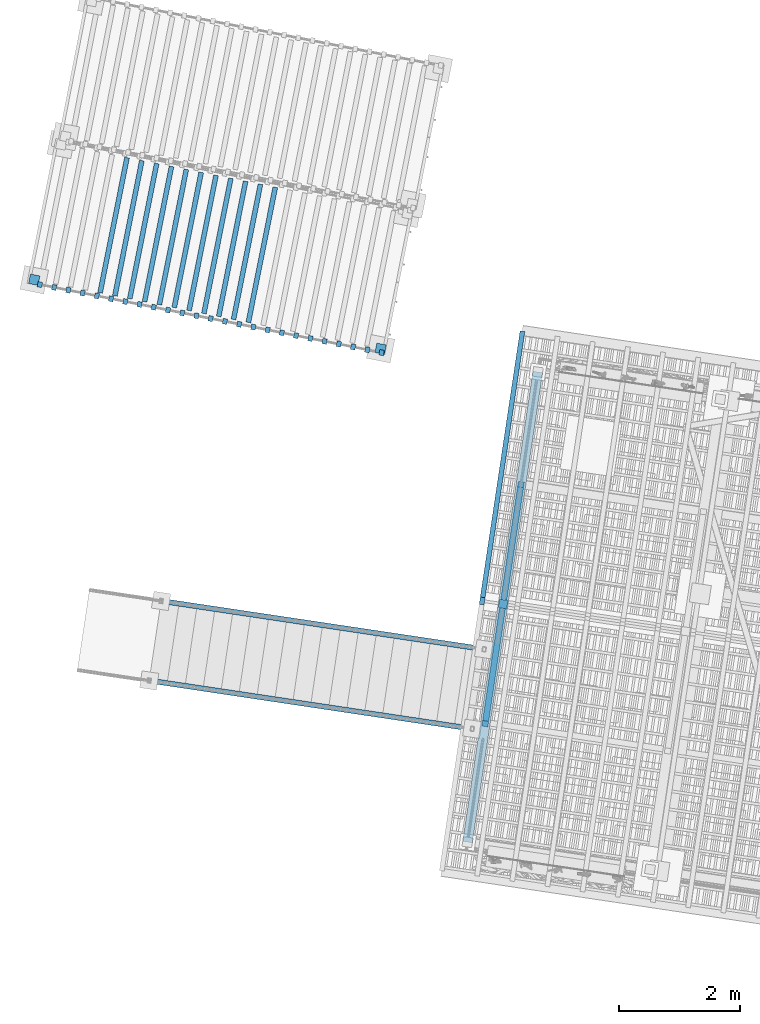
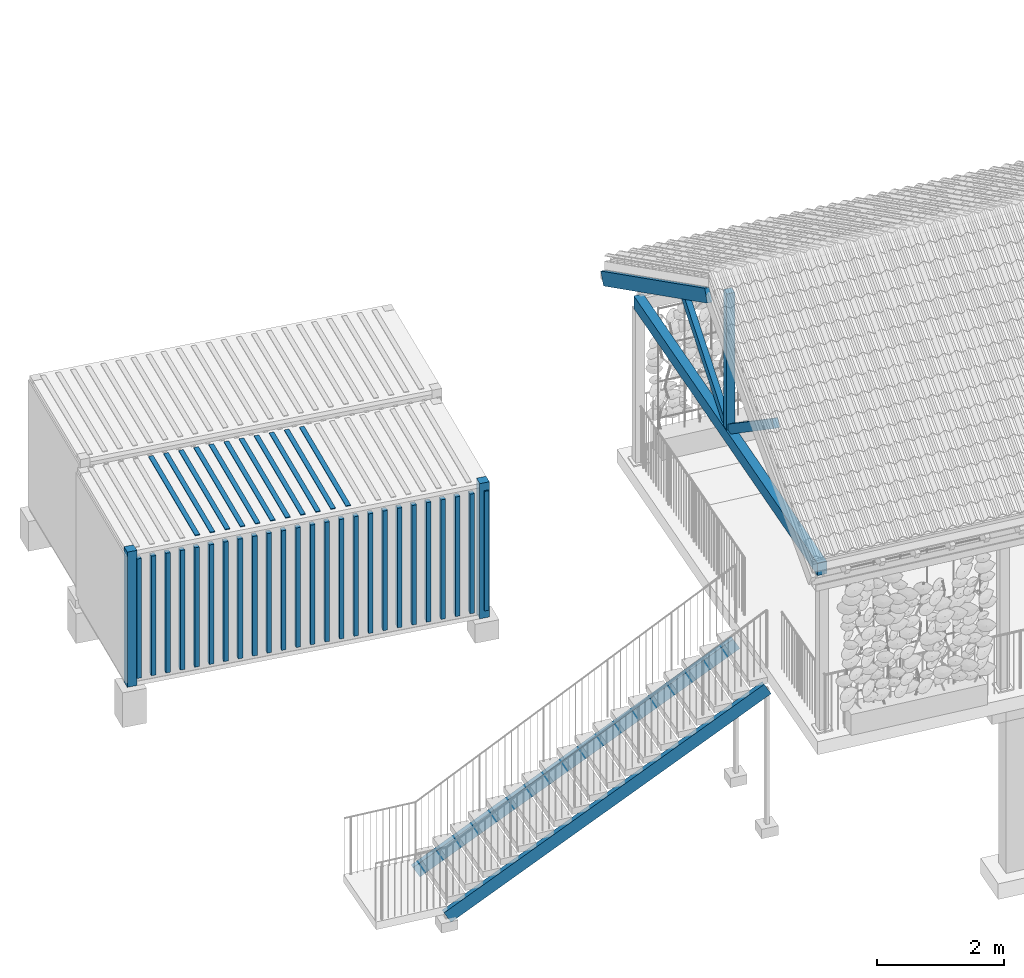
# One storey, part 23 of 131: 44 members, 1 beam, 3 elements without a shape of their own.
"""IFC4 building model written with IfcOpenShell, lengths in metres."""

from ifc_helpers import new_model, si_unit, direction, frame, origin_with_axes, place, context, subcontext, project, spatial, polyline, rectangle, outline, extrude, material, material_profile, profile_set, profile_usage, type_object, element, aggregate, save


model = new_model("IFC4")

# Units and contexts
model_context = context("Model", 3, precision=1e-05, world=origin_with_axes(), true_north=direction((0.0, 1.0)))
body_context = subcontext(model_context, "Body", "Model", "MODEL_VIEW")
ifc_project = project(units=[si_unit("VOLUMEUNIT", "CUBIC_METRE"), si_unit("LENGTHUNIT", "METRE"), si_unit("AREAUNIT", "SQUARE_METRE")], contexts=[model_context])

# Site, building, storey
site_placement = place(None, origin_with_axes())
site = spatial("IfcSite", under=ifc_project, at=site_placement, Name="Lares · Rua das Mercês · artigo 4771")
building_placement = place(site_placement, frame((15.0, 9.7, 15.8), z_axis=(0.0, 0.0, 1.0), x_axis=(0.989015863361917, -0.147809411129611, 0.0)))
building = spatial("IfcBuilding", under=site, at=building_placement, Name="Casa Sobreposta")
storey_placement = place(building_placement, origin_with_axes())
storey = spatial("IfcBuildingStorey", under=building, at=storey_placement, Name="00 · Habitação e estacionamento", Elevation=15.8)

# Roof, beam, members
ifc_material_1 = material(Name="Madeira / Bauholz", Category="wood")
roof_placement = place(storey_placement, origin_with_axes())
roof = element("IfcRoof", 1, at=roof_placement, inside=storey, material=ifc_material_1, Name="Cobertura de telha · duas águas 30 graus", PredefinedType="GABLE_ROOF")
ifc_material_profile_1 = material_profile(ifc_material_1, rectangle(XDim=0.16, YDim=0.24))
ifc_profile_set_1 = profile_set([ifc_material_profile_1], Name="TIMBER0.160x0.240")
ifc_profile_usage_1 = profile_usage(ifc_profile_set_1)
beam_type = type_object("IfcBeamType", Name="TIMBER0.160x0.240 / timber", PredefinedType="NOTDEFINED", material=ifc_profile_set_1)
beam_placement = place(roof_placement, frame((-6.05, -1.43, 3.02), z_axis=(0.0, 1.0, 0.0), x_axis=(1.0, 0.0, 0.0)))
beam = element("IfcBeam", 2, at=beam_placement, type_object=beam_type, material=ifc_profile_usage_1, Name="Tesoura · tirante inferior", context=body_context, shape_type="SweptSolid", body=[
    extrude(rectangle(XDim=0.16, YDim=0.24), origin_with_axes(), (0.0, 0.0, 1.0), 7.86),
])
ifc_material_profile_2 = material_profile(ifc_material_1, rectangle(XDim=0.14, YDim=0.14))
ifc_profile_set_2 = profile_set([ifc_material_profile_2], Name="TIMBER0.140x0.140")
ifc_profile_usage_2 = profile_usage(ifc_profile_set_2)
member_type_1 = type_object("IfcMemberType", Name="TIMBER0.140x0.140 / timber", PredefinedType="NOTDEFINED", material=ifc_profile_set_2)
member_1_placement = place(roof_placement, frame((-6.05, 2.55, 3.02), z_axis=(0.0, 0.0, 1.0), x_axis=(1.0, 0.0, 0.0)))
member_1 = element("IfcMember", 3, at=member_1_placement, type_object=member_type_1, material=ifc_profile_usage_2, Name="Tesoura · pendural", context=body_context, shape_type="SweptSolid", body=[
    extrude(rectangle(XDim=0.14, YDim=0.14), origin_with_axes(), (0.0, 0.0, 1.0), 2.72420869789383),
])
ifc_material_profile_3 = material_profile(ifc_material_1, rectangle(XDim=0.1, YDim=0.16))
ifc_profile_set_3 = profile_set([ifc_material_profile_3], Name="TIMBER0.100x0.160")
ifc_profile_usage_3 = profile_usage(ifc_profile_set_3)
member_type_2 = type_object("IfcMemberType", Name="TIMBER0.100x0.160 / timber", PredefinedType="NOTDEFINED", material=ifc_profile_set_3)
member_2_placement = place(roof_placement, frame((-6.05, 2.55, 3.1), z_axis=(0.0, -0.816439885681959, 0.577430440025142), x_axis=(-1.0, 0.0, 0.0)))
member_2 = element("IfcMember", 4, at=member_2_placement, type_object=member_type_2, material=ifc_profile_usage_3, Name="Tesoura · escora", context=body_context, shape_type="SweptSolid", body=[
    extrude(rectangle(XDim=0.1, YDim=0.16), origin_with_axes(), (0.0, 0.0, 1.0), 2.44965984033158),
])
ifc_profile_usage_4 = profile_usage(ifc_profile_set_3)
member_3_placement = place(roof_placement, frame((-6.05, 2.55, 3.1), z_axis=(0.0, 0.816439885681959, 0.577430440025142), x_axis=(1.0, 0.0, 0.0)))
member_3 = element("IfcMember", 5, at=member_3_placement, type_object=member_type_2, material=ifc_profile_usage_4, Name="Tesoura · escora", context=body_context, shape_type="SweptSolid", body=[
    extrude(rectangle(XDim=0.1, YDim=0.16), origin_with_axes(), (0.0, 0.0, 1.0), 2.44965984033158),
])
ifc_material_profile_4 = material_profile(ifc_material_1, rectangle(XDim=0.08, YDim=0.24))
ifc_profile_set_4 = profile_set([ifc_material_profile_4], Name="TIMBER0.080x0.240")
ifc_profile_usage_5 = profile_usage(ifc_profile_set_4)
member_type_3 = type_object("IfcMemberType", Name="TIMBER0.080x0.240 / timber", PredefinedType="NOTDEFINED", material=ifc_profile_set_4)
member_4_placement = place(roof_placement, frame((-6.4, 2.55, 5.75020869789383), z_axis=(0.0, 0.866025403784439, -0.5), x_axis=(1.0, 0.0, 0.0)))
member_4 = element("IfcMember", 6, at=member_4_placement, type_object=member_type_3, material=ifc_profile_usage_5, Name="Cobertura · caibro", context=body_context, shape_type="SweptSolid", body=[
    extrude(rectangle(XDim=0.08, YDim=0.24), origin_with_axes(), (0.0, 0.0, 1.0), 5.13841739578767),
])
aggregate(roof, [beam, member_1, member_2, member_3, member_4])

# Stair, members
stair_placement = place(storey_placement, origin_with_axes())
stair = element("IfcStair", 7, at=stair_placement, inside=storey, Name="Jardim · escada pela fachada poente", PredefinedType="STRAIGHT_RUN_STAIR")
ifc_material_2 = material(Name="Aço pintado / Stahl lackiert", Category="steel")
ifc_material_profile_5 = material_profile(ifc_material_2, outline(polyline([(-0.0425, -0.12), (0.0425, -0.12), (0.0425, -0.1102), (-0.0325, -0.1102), (-0.0325, 0.1102), (0.0425, 0.1102), (0.0425, 0.12), (-0.0425, 0.12), (-0.0425, -0.12)])))
ifc_profile_set_5 = profile_set([ifc_material_profile_5], Name="C240")
ifc_profile_usage_6 = profile_usage(ifc_profile_set_5)
member_type_4 = type_object("IfcMemberType", Name="C240 / steel", PredefinedType="NOTDEFINED", material=ifc_profile_set_5)
member_5_placement = place(stair_placement, frame((-6.25, 0.435, -0.426315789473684), z_axis=(-0.874591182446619, 0.0, -0.484861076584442), x_axis=(0.0, 1.0, 0.0)))
member_5 = element("IfcMember", 8, at=member_5_placement, type_object=member_type_4, material=ifc_profile_usage_6, Name="Jardim · longarina poente", context=body_context, shape_type="SweptSolid", body=[
    extrude(outline(polyline([(-0.0425, -0.12), (0.0425, -0.12), (0.0425, -0.1102), (-0.0325, -0.1102), (-0.0325, 0.1102), (0.0425, 0.1102), (0.0425, 0.12), (-0.0425, 0.12), (-0.0425, -0.12)])), origin_with_axes(), (0.0, 0.0, 1.0), 6.17431333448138),
])
ifc_profile_usage_7 = profile_usage(ifc_profile_set_5)
member_6_placement = place(stair_placement, frame((-6.25, 1.765, -0.426315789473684), z_axis=(-0.874591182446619, 0.0, -0.484861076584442), x_axis=(0.0, 1.0, 0.0)))
member_6 = element("IfcMember", 9, at=member_6_placement, type_object=member_type_4, material=ifc_profile_usage_7, Name="Jardim · longarina poente", context=body_context, shape_type="SweptSolid", body=[
    extrude(outline(polyline([(-0.0425, -0.12), (0.0425, -0.12), (0.0425, -0.1102), (-0.0325, -0.1102), (-0.0325, 0.1102), (0.0425, 0.1102), (0.0425, 0.12), (-0.0425, 0.12), (-0.0425, -0.12)])), origin_with_axes(), (0.0, 0.0, 1.0), 6.17431333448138),
])
aggregate(stair, [member_5, member_6])

# Assembly, members
assembly_placement = place(storey_placement, frame((-14.5932944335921, 6.63122214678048, 0.0), z_axis=(0.0, 0.0, 1.0), x_axis=(0.998832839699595, -0.0483007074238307, 0.0)))
assembly = element("IfcElementAssembly", 10, at=assembly_placement, inside=storey, Name="Contentor existente 2 · 6 m", ObjectType="EXISTING_SHIPPING_CONTAINER", PredefinedType="USERDEFINED")
ifc_material_3 = material(Name="Contentor · pintura 2", Category="steel")
member_7_placement = place(assembly_placement, frame((0.0, 0.0, -2.31875169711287), z_axis=(0.0, 0.0, 1.0), x_axis=(1.0, 0.0, 0.0)))
member_7 = element("IfcMember", 11, at=member_7_placement, material=ifc_material_3, Name="Contentor · canto", context=body_context, shape_type="SweptSolid", body=[
    extrude(outline(polyline([(0.16, 0.0), (0.16, 0.16), (0.0, 0.16), (0.0, 0.0), (0.16, 0.0)])), origin_with_axes(), (0.0, 0.0, 1.0), 2.59),
])
member_8_placement = place(assembly_placement, frame((0.0, 0.0, -2.31875169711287), z_axis=(0.0, 0.0, 1.0), x_axis=(1.0, 0.0, 0.0)))
member_8 = element("IfcMember", 12, at=member_8_placement, material=ifc_material_3, Name="Contentor · canto", context=body_context, shape_type="SweptSolid", body=[
    extrude(outline(polyline([(6.0, 0.0), (6.0, 0.16), (5.84, 0.16), (5.84, 0.0), (6.0, 0.0)])), origin_with_axes(), (0.0, 0.0, 1.0), 2.59),
])
member_9_placement = place(assembly_placement, frame((0.0, 0.0, -2.16875169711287), z_axis=(0.0, 0.0, 1.0), x_axis=(1.0, 0.0, 0.0)))
member_9 = element("IfcMember", 13, at=member_9_placement, material=ifc_material_3, Name="Contentor · nervura lateral", context=body_context, shape_type="SweptSolid", body=[
    extrude(outline(polyline([(0.225, -0.025), (0.225, 0.065), (0.15, 0.065), (0.15, -0.025), (0.225, -0.025)])), origin_with_axes(), (0.0, 0.0, 1.0), 2.29),
])
member_10_placement = place(assembly_placement, frame((0.0, 0.0, -2.16875169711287), z_axis=(0.0, 0.0, 1.0), x_axis=(1.0, 0.0, 0.0)))
member_10 = element("IfcMember", 14, at=member_10_placement, material=ifc_material_3, Name="Contentor · nervura lateral", context=body_context, shape_type="SweptSolid", body=[
    extrude(outline(polyline([(0.465, -0.025), (0.465, 0.065), (0.39, 0.065), (0.39, -0.025), (0.465, -0.025)])), origin_with_axes(), (0.0, 0.0, 1.0), 2.29),
])
member_11_placement = place(assembly_placement, frame((0.0, 0.0, -2.16875169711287), z_axis=(0.0, 0.0, 1.0), x_axis=(1.0, 0.0, 0.0)))
member_11 = element("IfcMember", 15, at=member_11_placement, material=ifc_material_3, Name="Contentor · nervura lateral", context=body_context, shape_type="SweptSolid", body=[
    extrude(outline(polyline([(0.705, -0.025), (0.705, 0.065), (0.63, 0.065), (0.63, -0.025), (0.705, -0.025)])), origin_with_axes(), (0.0, 0.0, 1.0), 2.29),
])
member_12_placement = place(assembly_placement, frame((0.0, 0.0, -2.16875169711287), z_axis=(0.0, 0.0, 1.0), x_axis=(1.0, 0.0, 0.0)))
member_12 = element("IfcMember", 16, at=member_12_placement, material=ifc_material_3, Name="Contentor · nervura lateral", context=body_context, shape_type="SweptSolid", body=[
    extrude(outline(polyline([(0.945, -0.025), (0.945, 0.065), (0.87, 0.065), (0.87, -0.025), (0.945, -0.025)])), origin_with_axes(), (0.0, 0.0, 1.0), 2.29),
])
member_13_placement = place(assembly_placement, frame((0.0, 0.0, -2.16875169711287), z_axis=(0.0, 0.0, 1.0), x_axis=(1.0, 0.0, 0.0)))
member_13 = element("IfcMember", 17, at=member_13_placement, material=ifc_material_3, Name="Contentor · nervura lateral", context=body_context, shape_type="SweptSolid", body=[
    extrude(outline(polyline([(1.185, -0.025), (1.185, 0.065), (1.11, 0.065), (1.11, -0.025), (1.185, -0.025)])), origin_with_axes(), (0.0, 0.0, 1.0), 2.29),
])
member_14_placement = place(assembly_placement, frame((0.0, 0.0, -2.16875169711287), z_axis=(0.0, 0.0, 1.0), x_axis=(1.0, 0.0, 0.0)))
member_14 = element("IfcMember", 18, at=member_14_placement, material=ifc_material_3, Name="Contentor · nervura lateral", context=body_context, shape_type="SweptSolid", body=[
    extrude(outline(polyline([(1.425, -0.025), (1.425, 0.065), (1.35, 0.065), (1.35, -0.025), (1.425, -0.025)])), origin_with_axes(), (0.0, 0.0, 1.0), 2.29),
])
member_15_placement = place(assembly_placement, frame((0.0, 0.0, -2.16875169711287), z_axis=(0.0, 0.0, 1.0), x_axis=(1.0, 0.0, 0.0)))
member_15 = element("IfcMember", 19, at=member_15_placement, material=ifc_material_3, Name="Contentor · nervura lateral", context=body_context, shape_type="SweptSolid", body=[
    extrude(outline(polyline([(1.665, -0.025), (1.665, 0.065), (1.59, 0.065), (1.59, -0.025), (1.665, -0.025)])), origin_with_axes(), (0.0, 0.0, 1.0), 2.29),
])
member_16_placement = place(assembly_placement, frame((0.0, 0.0, -2.16875169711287), z_axis=(0.0, 0.0, 1.0), x_axis=(1.0, 0.0, 0.0)))
member_16 = element("IfcMember", 20, at=member_16_placement, material=ifc_material_3, Name="Contentor · nervura lateral", context=body_context, shape_type="SweptSolid", body=[
    extrude(outline(polyline([(1.905, -0.025), (1.905, 0.065), (1.83, 0.065), (1.83, -0.025), (1.905, -0.025)])), origin_with_axes(), (0.0, 0.0, 1.0), 2.29),
])
member_17_placement = place(assembly_placement, frame((0.0, 0.0, -2.16875169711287), z_axis=(0.0, 0.0, 1.0), x_axis=(1.0, 0.0, 0.0)))
member_17 = element("IfcMember", 21, at=member_17_placement, material=ifc_material_3, Name="Contentor · nervura lateral", context=body_context, shape_type="SweptSolid", body=[
    extrude(outline(polyline([(2.145, -0.025), (2.145, 0.065), (2.07, 0.065), (2.07, -0.025), (2.145, -0.025)])), origin_with_axes(), (0.0, 0.0, 1.0), 2.29),
])
member_18_placement = place(assembly_placement, frame((0.0, 0.0, -2.16875169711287), z_axis=(0.0, 0.0, 1.0), x_axis=(1.0, 0.0, 0.0)))
member_18 = element("IfcMember", 22, at=member_18_placement, material=ifc_material_3, Name="Contentor · nervura lateral", context=body_context, shape_type="SweptSolid", body=[
    extrude(outline(polyline([(2.385, -0.025), (2.385, 0.065), (2.31, 0.065), (2.31, -0.025), (2.385, -0.025)])), origin_with_axes(), (0.0, 0.0, 1.0), 2.29),
])
member_19_placement = place(assembly_placement, frame((0.0, 0.0, -2.16875169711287), z_axis=(0.0, 0.0, 1.0), x_axis=(1.0, 0.0, 0.0)))
member_19 = element("IfcMember", 23, at=member_19_placement, material=ifc_material_3, Name="Contentor · nervura lateral", context=body_context, shape_type="SweptSolid", body=[
    extrude(outline(polyline([(2.625, -0.025), (2.625, 0.065), (2.55, 0.065), (2.55, -0.025), (2.625, -0.025)])), origin_with_axes(), (0.0, 0.0, 1.0), 2.29),
])
member_20_placement = place(assembly_placement, frame((0.0, 0.0, -2.16875169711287), z_axis=(0.0, 0.0, 1.0), x_axis=(1.0, 0.0, 0.0)))
member_20 = element("IfcMember", 24, at=member_20_placement, material=ifc_material_3, Name="Contentor · nervura lateral", context=body_context, shape_type="SweptSolid", body=[
    extrude(outline(polyline([(2.865, -0.025), (2.865, 0.065), (2.79, 0.065), (2.79, -0.025), (2.865, -0.025)])), origin_with_axes(), (0.0, 0.0, 1.0), 2.29),
])
member_21_placement = place(assembly_placement, frame((0.0, 0.0, -2.16875169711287), z_axis=(0.0, 0.0, 1.0), x_axis=(1.0, 0.0, 0.0)))
member_21 = element("IfcMember", 25, at=member_21_placement, material=ifc_material_3, Name="Contentor · nervura lateral", context=body_context, shape_type="SweptSolid", body=[
    extrude(outline(polyline([(3.105, -0.025), (3.105, 0.065), (3.03, 0.065), (3.03, -0.025), (3.105, -0.025)])), origin_with_axes(), (0.0, 0.0, 1.0), 2.29),
])
member_22_placement = place(assembly_placement, frame((0.0, 0.0, -2.16875169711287), z_axis=(0.0, 0.0, 1.0), x_axis=(1.0, 0.0, 0.0)))
member_22 = element("IfcMember", 26, at=member_22_placement, material=ifc_material_3, Name="Contentor · nervura lateral", context=body_context, shape_type="SweptSolid", body=[
    extrude(outline(polyline([(3.345, -0.025), (3.345, 0.065), (3.27, 0.065), (3.27, -0.025), (3.345, -0.025)])), origin_with_axes(), (0.0, 0.0, 1.0), 2.29),
])
member_23_placement = place(assembly_placement, frame((0.0, 0.0, -2.16875169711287), z_axis=(0.0, 0.0, 1.0), x_axis=(1.0, 0.0, 0.0)))
member_23 = element("IfcMember", 27, at=member_23_placement, material=ifc_material_3, Name="Contentor · nervura lateral", context=body_context, shape_type="SweptSolid", body=[
    extrude(outline(polyline([(3.585, -0.025), (3.585, 0.065), (3.51, 0.065), (3.51, -0.025), (3.585, -0.025)])), origin_with_axes(), (0.0, 0.0, 1.0), 2.29),
])
member_24_placement = place(assembly_placement, frame((0.0, 0.0, -2.16875169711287), z_axis=(0.0, 0.0, 1.0), x_axis=(1.0, 0.0, 0.0)))
member_24 = element("IfcMember", 28, at=member_24_placement, material=ifc_material_3, Name="Contentor · nervura lateral", context=body_context, shape_type="SweptSolid", body=[
    extrude(outline(polyline([(3.825, -0.025), (3.825, 0.065), (3.75, 0.065), (3.75, -0.025), (3.825, -0.025)])), origin_with_axes(), (0.0, 0.0, 1.0), 2.29),
])
member_25_placement = place(assembly_placement, frame((0.0, 0.0, -2.16875169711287), z_axis=(0.0, 0.0, 1.0), x_axis=(1.0, 0.0, 0.0)))
member_25 = element("IfcMember", 29, at=member_25_placement, material=ifc_material_3, Name="Contentor · nervura lateral", context=body_context, shape_type="SweptSolid", body=[
    extrude(outline(polyline([(4.065, -0.025), (4.065, 0.065), (3.99, 0.065), (3.99, -0.025), (4.065, -0.025)])), origin_with_axes(), (0.0, 0.0, 1.0), 2.29),
])
member_26_placement = place(assembly_placement, frame((0.0, 0.0, -2.16875169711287), z_axis=(0.0, 0.0, 1.0), x_axis=(1.0, 0.0, 0.0)))
member_26 = element("IfcMember", 30, at=member_26_placement, material=ifc_material_3, Name="Contentor · nervura lateral", context=body_context, shape_type="SweptSolid", body=[
    extrude(outline(polyline([(4.305, -0.025), (4.305, 0.065), (4.23, 0.065), (4.23, -0.025), (4.305, -0.025)])), origin_with_axes(), (0.0, 0.0, 1.0), 2.29),
])
member_27_placement = place(assembly_placement, frame((0.0, 0.0, -2.16875169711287), z_axis=(0.0, 0.0, 1.0), x_axis=(1.0, 0.0, 0.0)))
member_27 = element("IfcMember", 31, at=member_27_placement, material=ifc_material_3, Name="Contentor · nervura lateral", context=body_context, shape_type="SweptSolid", body=[
    extrude(outline(polyline([(4.545, -0.025), (4.545, 0.065), (4.47, 0.065), (4.47, -0.025), (4.545, -0.025)])), origin_with_axes(), (0.0, 0.0, 1.0), 2.29),
])
member_28_placement = place(assembly_placement, frame((0.0, 0.0, -2.16875169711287), z_axis=(0.0, 0.0, 1.0), x_axis=(1.0, 0.0, 0.0)))
member_28 = element("IfcMember", 32, at=member_28_placement, material=ifc_material_3, Name="Contentor · nervura lateral", context=body_context, shape_type="SweptSolid", body=[
    extrude(outline(polyline([(4.785, -0.025), (4.785, 0.065), (4.71, 0.065), (4.71, -0.025), (4.785, -0.025)])), origin_with_axes(), (0.0, 0.0, 1.0), 2.29),
])
member_29_placement = place(assembly_placement, frame((0.0, 0.0, -2.16875169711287), z_axis=(0.0, 0.0, 1.0), x_axis=(1.0, 0.0, 0.0)))
member_29 = element("IfcMember", 33, at=member_29_placement, material=ifc_material_3, Name="Contentor · nervura lateral", context=body_context, shape_type="SweptSolid", body=[
    extrude(outline(polyline([(5.025, -0.025), (5.025, 0.065), (4.95, 0.065), (4.95, -0.025), (5.025, -0.025)])), origin_with_axes(), (0.0, 0.0, 1.0), 2.29),
])
member_30_placement = place(assembly_placement, frame((0.0, 0.0, -2.16875169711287), z_axis=(0.0, 0.0, 1.0), x_axis=(1.0, 0.0, 0.0)))
member_30 = element("IfcMember", 34, at=member_30_placement, material=ifc_material_3, Name="Contentor · nervura lateral", context=body_context, shape_type="SweptSolid", body=[
    extrude(outline(polyline([(5.265, -0.025), (5.265, 0.065), (5.19, 0.065), (5.19, -0.025), (5.265, -0.025)])), origin_with_axes(), (0.0, 0.0, 1.0), 2.29),
])
member_31_placement = place(assembly_placement, frame((0.0, 0.0, -2.16875169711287), z_axis=(0.0, 0.0, 1.0), x_axis=(1.0, 0.0, 0.0)))
member_31 = element("IfcMember", 35, at=member_31_placement, material=ifc_material_3, Name="Contentor · nervura lateral", context=body_context, shape_type="SweptSolid", body=[
    extrude(outline(polyline([(5.505, -0.025), (5.505, 0.065), (5.43, 0.065), (5.43, -0.025), (5.505, -0.025)])), origin_with_axes(), (0.0, 0.0, 1.0), 2.29),
])
member_32_placement = place(assembly_placement, frame((0.0, 0.0, -2.16875169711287), z_axis=(0.0, 0.0, 1.0), x_axis=(1.0, 0.0, 0.0)))
member_32 = element("IfcMember", 36, at=member_32_placement, material=ifc_material_3, Name="Contentor · nervura lateral", context=body_context, shape_type="SweptSolid", body=[
    extrude(outline(polyline([(5.745, -0.025), (5.745, 0.065), (5.67, 0.065), (5.67, -0.025), (5.745, -0.025)])), origin_with_axes(), (0.0, 0.0, 1.0), 2.29),
])
member_33_placement = place(assembly_placement, frame((0.0, 0.0, -2.16875169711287), z_axis=(0.0, 0.0, 1.0), x_axis=(1.0, 0.0, 0.0)))
member_33 = element("IfcMember", 37, at=member_33_placement, material=ifc_material_3, Name="Contentor · nervura lateral", context=body_context, shape_type="SweptSolid", body=[
    extrude(outline(polyline([(5.985, -0.025), (5.985, 0.065), (5.91, 0.065), (5.91, -0.025), (5.985, -0.025)])), origin_with_axes(), (0.0, 0.0, 1.0), 2.29),
])
member_34_placement = place(assembly_placement, frame((0.0, 0.0, 0.266248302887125), z_axis=(0.0, 0.0, 1.0), x_axis=(1.0, 0.0, 0.0)))
member_34 = element("IfcMember", 38, at=member_34_placement, material=ifc_material_3, Name="Contentor · nervura cobertura", context=body_context, shape_type="SweptSolid", body=[
    extrude(outline(polyline([(1.23, 0.08), (1.23, 2.36), (1.15, 2.36), (1.15, 0.08), (1.23, 0.08)])), origin_with_axes(), (0.0, 0.0, 1.0), 0.018),
])
member_35_placement = place(assembly_placement, frame((0.0, 0.0, 0.266248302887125), z_axis=(0.0, 0.0, 1.0), x_axis=(1.0, 0.0, 0.0)))
member_35 = element("IfcMember", 39, at=member_35_placement, material=ifc_material_3, Name="Contentor · nervura cobertura", context=body_context, shape_type="SweptSolid", body=[
    extrude(outline(polyline([(1.48, 0.08), (1.48, 2.36), (1.4, 2.36), (1.4, 0.08), (1.48, 0.08)])), origin_with_axes(), (0.0, 0.0, 1.0), 0.018),
])
member_36_placement = place(assembly_placement, frame((0.0, 0.0, 0.266248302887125), z_axis=(0.0, 0.0, 1.0), x_axis=(1.0, 0.0, 0.0)))
member_36 = element("IfcMember", 40, at=member_36_placement, material=ifc_material_3, Name="Contentor · nervura cobertura", context=body_context, shape_type="SweptSolid", body=[
    extrude(outline(polyline([(1.73, 0.08), (1.73, 2.36), (1.65, 2.36), (1.65, 0.08), (1.73, 0.08)])), origin_with_axes(), (0.0, 0.0, 1.0), 0.018),
])
member_37_placement = place(assembly_placement, frame((0.0, 0.0, 0.266248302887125), z_axis=(0.0, 0.0, 1.0), x_axis=(1.0, 0.0, 0.0)))
member_37 = element("IfcMember", 41, at=member_37_placement, material=ifc_material_3, Name="Contentor · nervura cobertura", context=body_context, shape_type="SweptSolid", body=[
    extrude(outline(polyline([(1.98, 0.08), (1.98, 2.36), (1.9, 2.36), (1.9, 0.08), (1.98, 0.08)])), origin_with_axes(), (0.0, 0.0, 1.0), 0.018),
])
member_38_placement = place(assembly_placement, frame((0.0, 0.0, 0.266248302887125), z_axis=(0.0, 0.0, 1.0), x_axis=(1.0, 0.0, 0.0)))
member_38 = element("IfcMember", 42, at=member_38_placement, material=ifc_material_3, Name="Contentor · nervura cobertura", context=body_context, shape_type="SweptSolid", body=[
    extrude(outline(polyline([(2.23, 0.08), (2.23, 2.36), (2.15, 2.36), (2.15, 0.08), (2.23, 0.08)])), origin_with_axes(), (0.0, 0.0, 1.0), 0.018),
])
member_39_placement = place(assembly_placement, frame((0.0, 0.0, 0.266248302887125), z_axis=(0.0, 0.0, 1.0), x_axis=(1.0, 0.0, 0.0)))
member_39 = element("IfcMember", 43, at=member_39_placement, material=ifc_material_3, Name="Contentor · nervura cobertura", context=body_context, shape_type="SweptSolid", body=[
    extrude(outline(polyline([(2.48, 0.08), (2.48, 2.36), (2.4, 2.36), (2.4, 0.08), (2.48, 0.08)])), origin_with_axes(), (0.0, 0.0, 1.0), 0.018),
])
member_40_placement = place(assembly_placement, frame((0.0, 0.0, 0.266248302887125), z_axis=(0.0, 0.0, 1.0), x_axis=(1.0, 0.0, 0.0)))
member_40 = element("IfcMember", 44, at=member_40_placement, material=ifc_material_3, Name="Contentor · nervura cobertura", context=body_context, shape_type="SweptSolid", body=[
    extrude(outline(polyline([(2.73, 0.08), (2.73, 2.36), (2.65, 2.36), (2.65, 0.08), (2.73, 0.08)])), origin_with_axes(), (0.0, 0.0, 1.0), 0.018),
])
member_41_placement = place(assembly_placement, frame((0.0, 0.0, 0.266248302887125), z_axis=(0.0, 0.0, 1.0), x_axis=(1.0, 0.0, 0.0)))
member_41 = element("IfcMember", 45, at=member_41_placement, material=ifc_material_3, Name="Contentor · nervura cobertura", context=body_context, shape_type="SweptSolid", body=[
    extrude(outline(polyline([(2.98, 0.08), (2.98, 2.36), (2.9, 2.36), (2.9, 0.08), (2.98, 0.08)])), origin_with_axes(), (0.0, 0.0, 1.0), 0.018),
])
member_42_placement = place(assembly_placement, frame((0.0, 0.0, 0.266248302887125), z_axis=(0.0, 0.0, 1.0), x_axis=(1.0, 0.0, 0.0)))
member_42 = element("IfcMember", 46, at=member_42_placement, material=ifc_material_3, Name="Contentor · nervura cobertura", context=body_context, shape_type="SweptSolid", body=[
    extrude(outline(polyline([(3.23, 0.08), (3.23, 2.36), (3.15, 2.36), (3.15, 0.08), (3.23, 0.08)])), origin_with_axes(), (0.0, 0.0, 1.0), 0.018),
])
member_43_placement = place(assembly_placement, frame((0.0, 0.0, 0.266248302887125), z_axis=(0.0, 0.0, 1.0), x_axis=(1.0, 0.0, 0.0)))
member_43 = element("IfcMember", 47, at=member_43_placement, material=ifc_material_3, Name="Contentor · nervura cobertura", context=body_context, shape_type="SweptSolid", body=[
    extrude(outline(polyline([(3.48, 0.08), (3.48, 2.36), (3.4, 2.36), (3.4, 0.08), (3.48, 0.08)])), origin_with_axes(), (0.0, 0.0, 1.0), 0.018),
])
member_44_placement = place(assembly_placement, frame((0.0, 0.0, 0.266248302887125), z_axis=(0.0, 0.0, 1.0), x_axis=(1.0, 0.0, 0.0)))
member_44 = element("IfcMember", 48, at=member_44_placement, material=ifc_material_3, Name="Contentor · nervura cobertura", context=body_context, shape_type="SweptSolid", body=[
    extrude(outline(polyline([(3.73, 0.08), (3.73, 2.36), (3.65, 2.36), (3.65, 0.08), (3.73, 0.08)])), origin_with_axes(), (0.0, 0.0, 1.0), 0.018),
])
aggregate(assembly, [member_7, member_8, member_9, member_10, member_11, member_12, member_13, member_14, member_15, member_16, member_17, member_18, member_19, member_20, member_21, member_22, member_23, member_24, member_25, member_26, member_27, member_28, member_29, member_30, member_31, member_32, member_33, member_34, member_35, member_36, member_37, member_38, member_39, member_40, member_41, member_42, member_43, member_44])

save(model, "model.ifc")
